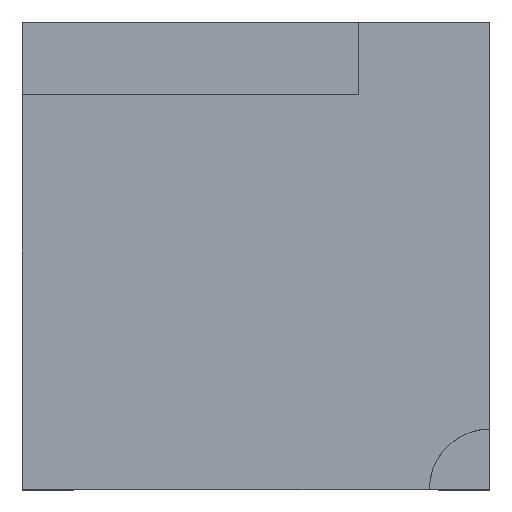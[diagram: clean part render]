
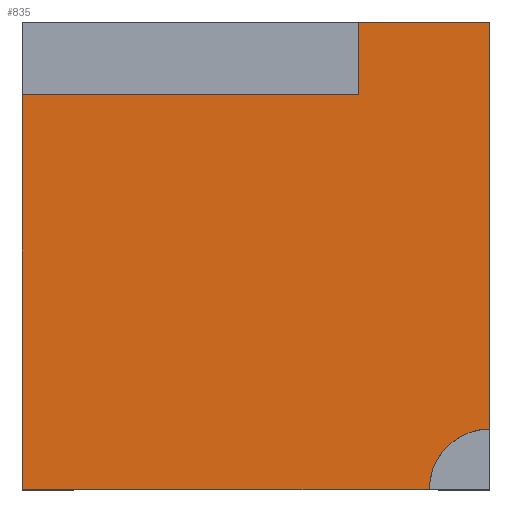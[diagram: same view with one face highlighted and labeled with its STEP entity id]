
A CAD part, top view. The second image highlights one B-rep face of the part: STEP entity #835.
In plain terms, the highlighted planar face has unit normal (0, 0, 1).
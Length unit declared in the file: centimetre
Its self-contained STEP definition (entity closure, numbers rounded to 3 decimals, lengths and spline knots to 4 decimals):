
#7 = VECTOR ( 'NONE', #1139, 100. ) ;
#57 = LINE ( 'NONE', #68, #1090 ) ;
#62 = AXIS2_PLACEMENT_3D ( 'NONE', #1105, #1093, #887 ) ;
#68 = CARTESIAN_POINT ( 'NONE',  ( 0., 1000., 1000. ) ) ;
#75 = CARTESIAN_POINT ( 'NONE',  ( 0., 1000., 1000. ) ) ;
#96 = EDGE_CURVE ( 'NONE', #1291, #442, #263, .T. ) ;
#98 = ORIENTED_EDGE ( 'NONE', *, *, #96, .T. ) ;
#140 = LINE ( 'NONE', #1290, #1085 ) ;
#147 = CARTESIAN_POINT ( 'NONE',  ( 1000., 1000., 1000. ) ) ;
#156 = VERTEX_POINT ( 'NONE', #819 ) ;
#263 = LINE ( 'NONE', #802, #1363 ) ;
#274 = CARTESIAN_POINT ( 'NONE',  ( 1000., 129.1806, 1000. ) ) ;
#277 = CARTESIAN_POINT ( 'NONE',  ( 719.103, 844.3154, 1000. ) ) ;
#292 = EDGE_CURVE ( 'NONE', #1261, #543, #759, .T. ) ;
#343 = VECTOR ( 'NONE', #491, 100. ) ;
#358 = EDGE_CURVE ( 'NONE', #1096, #747, #140, .T. ) ;
#394 = EDGE_CURVE ( 'NONE', #1261, #156, #1308, .T. ) ;
#397 = DIRECTION ( 'NONE',  ( 0., 0., 1. ) ) ;
#442 = VERTEX_POINT ( 'NONE', #147 ) ;
#458 = CARTESIAN_POINT ( 'NONE',  ( 870.8194, 0., 1000. ) ) ;
#464 = EDGE_CURVE ( 'NONE', #1291, #747, #1175, .T. ) ;
#483 = DIRECTION ( 'NONE',  ( 1., 0., 0. ) ) ;
#491 = DIRECTION ( 'NONE',  ( -1., 0., 0. ) ) ;
#497 = DIRECTION ( 'NONE',  ( 0., -1., 0. ) ) ;
#543 = VERTEX_POINT ( 'NONE', #830 ) ;
#650 = AXIS2_PLACEMENT_3D ( 'NONE', #804, #397, #483 ) ;
#747 = VERTEX_POINT ( 'NONE', #458 ) ;
#759 = LINE ( 'NONE', #859, #1232 ) ;
#773 = ORIENTED_EDGE ( 'NONE', *, *, #464, .F. ) ;
#775 = DIRECTION ( 'NONE',  ( 0., 1., 0. ) ) ;
#787 = ORIENTED_EDGE ( 'NONE', *, *, #394, .T. ) ;
#802 = CARTESIAN_POINT ( 'NONE',  ( 1000., 1000., 1000. ) ) ;
#803 = LINE ( 'NONE', #75, #7 ) ;
#804 = CARTESIAN_POINT ( 'NONE',  ( 1000., 0., 1000. ) ) ;
#819 = CARTESIAN_POINT ( 'NONE',  ( 0., 844.3154, 1000. ) ) ;
#820 = CARTESIAN_POINT ( 'NONE',  ( 0., 0., 1000. ) ) ;
#830 = CARTESIAN_POINT ( 'NONE',  ( 719.103, 1000., 1000. ) ) ;
#835 = ADVANCED_FACE ( 'NONE', ( #1004 ), #1220, .T. ) ;
#859 = CARTESIAN_POINT ( 'NONE',  ( 719.103, 844.3154, 1000. ) ) ;
#887 = DIRECTION ( 'NONE',  ( 1., 0., 0. ) ) ;
#959 = ORIENTED_EDGE ( 'NONE', *, *, #1294, .T. ) ;
#971 = ORIENTED_EDGE ( 'NONE', *, *, #358, .T. ) ;
#979 = DIRECTION ( 'NONE',  ( 1., 0., 0. ) ) ;
#1003 = DIRECTION ( 'NONE',  ( 0., 1., 0. ) ) ;
#1004 = FACE_OUTER_BOUND ( 'NONE', #1162, .T. ) ;
#1085 = VECTOR ( 'NONE', #979, 100. ) ;
#1090 = VECTOR ( 'NONE', #497, 100. ) ;
#1093 = DIRECTION ( 'NONE',  ( 0., 0., 1. ) ) ;
#1096 = VERTEX_POINT ( 'NONE', #820 ) ;
#1105 = CARTESIAN_POINT ( 'NONE',  ( 0., 0., 1000. ) ) ;
#1108 = EDGE_CURVE ( 'NONE', #442, #543, #803, .T. ) ;
#1139 = DIRECTION ( 'NONE',  ( -1., 0., 0. ) ) ;
#1162 = EDGE_LOOP ( 'NONE', ( #787, #959, #971, #773, #98, #1276, #1235 ) ) ;
#1175 = CIRCLE ( 'NONE', #650, 129.1806 ) ;
#1217 = CARTESIAN_POINT ( 'NONE',  ( 719.103, 844.3154, 1000. ) ) ;
#1220 = PLANE ( 'NONE',  #62 ) ;
#1232 = VECTOR ( 'NONE', #775, 100. ) ;
#1235 = ORIENTED_EDGE ( 'NONE', *, *, #292, .F. ) ;
#1261 = VERTEX_POINT ( 'NONE', #1217 ) ;
#1276 = ORIENTED_EDGE ( 'NONE', *, *, #1108, .T. ) ;
#1290 = CARTESIAN_POINT ( 'NONE',  ( 0., 0., 1000. ) ) ;
#1291 = VERTEX_POINT ( 'NONE', #274 ) ;
#1294 = EDGE_CURVE ( 'NONE', #156, #1096, #57, .T. ) ;
#1308 = LINE ( 'NONE', #277, #343 ) ;
#1363 = VECTOR ( 'NONE', #1003, 100. ) ;
